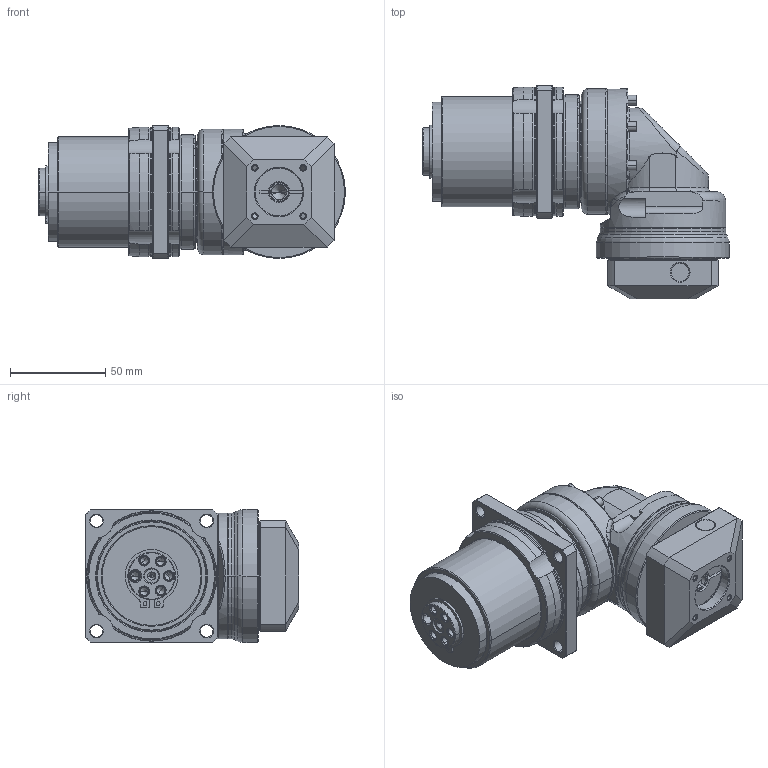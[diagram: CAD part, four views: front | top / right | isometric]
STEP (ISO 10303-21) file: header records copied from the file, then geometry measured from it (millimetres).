
FILE_DESCRIPTION((''),'2;1');
FILE_NAME('PLR070_2ST_8-P0411100101_ASM','2016-06-21T',('d00435'),(''),'PRO/ENGINEER BY PARAMETRIC TECHNOLOGY CORPORATION, 2008410','PRO/ENGINEER BY PARAMETRIC TECHNOLOGY CORPORATION, 2008410','');
FILE_SCHEMA(('CONFIG_CONTROL_DESIGN'));
Length unit declared in the file: millimetre
Products named in the file (12): P0272200001; P0366200001; 22802000015; P1356200001; P0274200001; P1349200001; P1017210001; P1350200001; P0503100005; P0713200001; P0411100101; PLR070_2ST_8-P0411100101_ASM
Assembly tree (11 placements, depth 2):
  PLR070_2ST_8-P0411100101_ASM
    P0272200001
    P0366200001
    22802000015
    P1356200001
    P0274200001
    P1349200001
    P1017210001
    P1350200001
    P0503100005
    P0713200001
    P0411100101
Bounding box: 161.5 x 112.5 x 70 mm (x, y, z)
Volume: 491807.5 mm3; surface area: 128099.9 mm2
Topology: 11 solids, 32 shells, 737 faces, 1761 edges, 1067 vertices
Faces by surface type: cylinder 247, cone 222, plane 138, torus 98, bspline 32
Entity records: 24707 total; most frequent: CARTESIAN_POINT 7519, DIRECTION 3774, ORIENTED_EDGE 3342, EDGE_CURVE 1713, AXIS2_PLACEMENT_3D 1599, VERTEX_POINT 1067, CIRCLE 861, EDGE_LOOP 838
